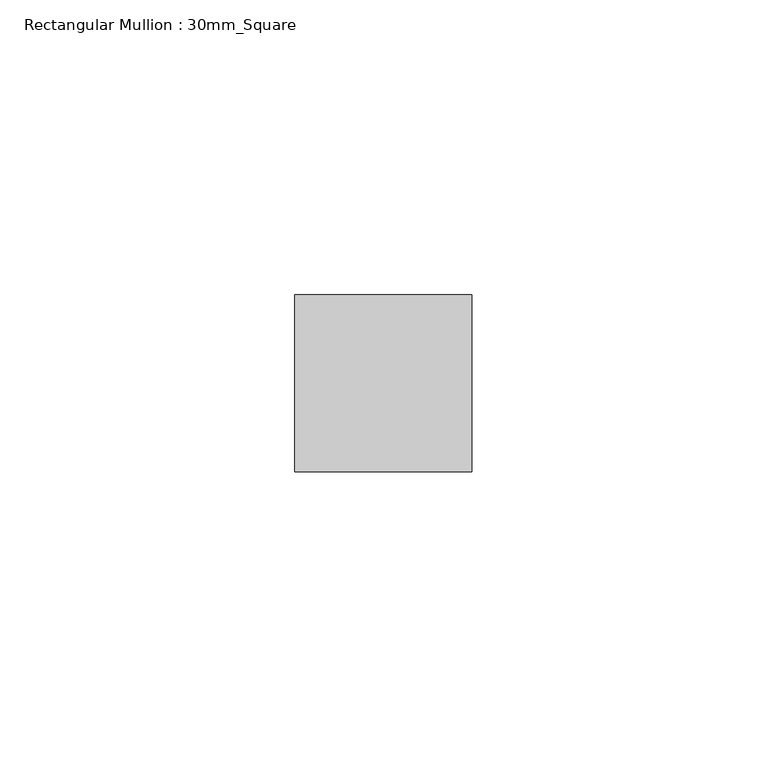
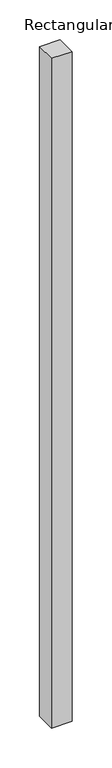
"""IFC4 building model written with IfcOpenShell, lengths in millimetres: member geometry, Rectangular Mullion : 30mm_Square."""

from ifc_helpers import new_model, si_unit, frame, origin, place, context, project, spatial, polyline, outline, extrude, source, transform, mapped, element, save


def rectangular_mullion_30mm_square_edda4eb9(model_context):
    return source(origin(), model_context, "Body", "SweptSolid", [
        extrude(outline(polyline([(0.0, 2.5), (0.0, -27.5), (-30.0, -27.5), (-30.0, 2.5), (0.0, 2.5)])), frame((0.0, 0.0, -1027.4857145), z_axis=(0.0, 0.0, 1.0), x_axis=(1.0, 0.0, 0.0)), (0.0, 0.0, 1.0), 1027.4857145),
    ])


if __name__ == "__main__":
    model = new_model("IFC4")
    model_context = context("Model", 3, world=origin())
    ifc_project = project(units=[si_unit("LENGTHUNIT", "METRE", prefix="MILLI")], contexts=[model_context])
    site = spatial("IfcSite", under=ifc_project)
    building = spatial("IfcBuilding", under=site)
    placement = place(None, origin())
    rectangular_mullion_30mm_square_shape = rectangular_mullion_30mm_square_edda4eb9(model_context)
    element("IfcMember", 1, ObjectType="Rectangular Mullion : 30mm_Square", at=placement, inside=building, context=model_context, shape_type="MappedRepresentation", body=[
        mapped(rectangular_mullion_30mm_square_shape, transform((0.0, 0.0, 0.0), x_axis=(1.0, 0.0, 0.0), y_axis=(0.0, 1.0, 0.0), z_axis=(0.0, 0.0, 1.0))),
    ])
    save(model, "model.ifc")
